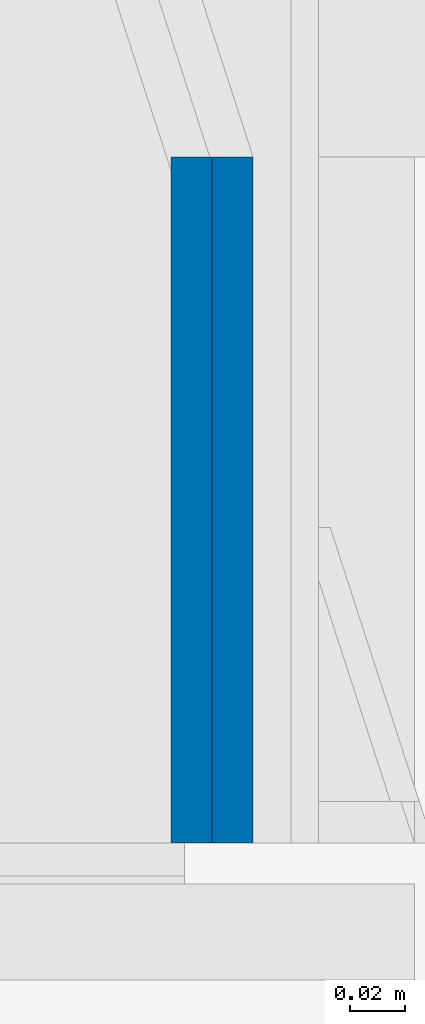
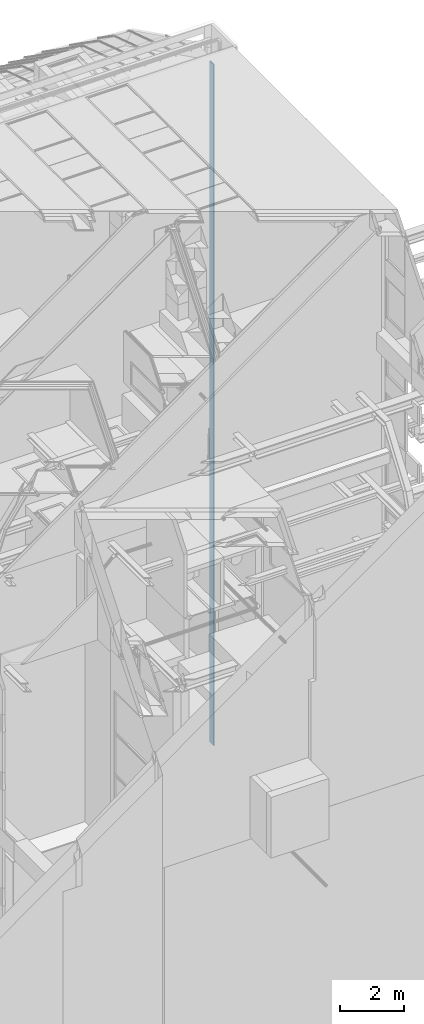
# One storey, part 26 of 583: 2 walls.
"""IFC2X3 building model written with IfcOpenShell, lengths in metres."""

from ifc_helpers import new_model, entity, si_unit, converted_unit, derived_unit, money_unit, direction, frame, frame_2d, origin_with_axes, place, context, subcontext, project, spatial, rectangle, extrude, material, type_object, element, save


model = new_model("IFC2X3")

# Units and contexts
model_context = context("Model", 3, precision=1e-05, world=origin_with_axes(), true_north=direction((0.0, 1.0)))
body_context = subcontext(model_context, "Body", "Model", "MODEL_VIEW", scale=1.0)
ifc_project = project(units=[si_unit("LENGTHUNIT", "METRE"), si_unit("AREAUNIT", "SQUARE_METRE"), si_unit("VOLUMEUNIT", "CUBIC_METRE"), si_unit("ABSORBEDDOSEUNIT", "GRAY"), si_unit("AMOUNTOFSUBSTANCEUNIT", "MOLE"), si_unit("DOSEEQUIVALENTUNIT", "SIEVERT"), si_unit("ELECTRICCAPACITANCEUNIT", "FARAD"), si_unit("ELECTRICCHARGEUNIT", "COULOMB"), si_unit("ELECTRICCONDUCTANCEUNIT", "SIEMENS"), si_unit("ELECTRICCURRENTUNIT", "AMPERE"), si_unit("ELECTRICRESISTANCEUNIT", "OHM"), si_unit("ELECTRICVOLTAGEUNIT", "VOLT"), si_unit("ENERGYUNIT", "JOULE"), si_unit("FORCEUNIT", "NEWTON"), si_unit("FREQUENCYUNIT", "HERTZ"), si_unit("ILLUMINANCEUNIT", "LUX"), si_unit("INDUCTANCEUNIT", "HENRY"), si_unit("LUMINOUSFLUXUNIT", "LUMEN"), si_unit("LUMINOUSINTENSITYUNIT", "CANDELA"), si_unit("MAGNETICFLUXDENSITYUNIT", "TESLA"), si_unit("MAGNETICFLUXUNIT", "WEBER"), si_unit("MASSUNIT", "GRAM"), converted_unit("PLANEANGLEUNIT", "degree", entity("IfcReal", 0.0174532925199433), si_unit("PLANEANGLEUNIT", "RADIAN"), dimensions=[0, 0, 0, 0, 0, 0, 0]), si_unit("POWERUNIT", "WATT"), si_unit("PRESSUREUNIT", "PASCAL"), si_unit("RADIOACTIVITYUNIT", "BECQUEREL"), si_unit("SOLIDANGLEUNIT", "STERADIAN"), si_unit("THERMODYNAMICTEMPERATUREUNIT", "KELVIN"), si_unit("TIMEUNIT", "SECOND"), derived_unit("ACCELERATIONUNIT", [(si_unit("LENGTHUNIT", "METRE"), 1), (si_unit("TIMEUNIT", "SECOND"), -2)]), derived_unit("ANGULARVELOCITYUNIT", [(converted_unit("PLANEANGLEUNIT", "degree", entity("IfcReal", 0.0174532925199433), si_unit("PLANEANGLEUNIT", "RADIAN"), dimensions=[0, 0, 0, 0, 0, 0, 0]), 1), (si_unit("TIMEUNIT", "SECOND"), -1)]), derived_unit("CURVATUREUNIT", [(converted_unit("PLANEANGLEUNIT", "degree", entity("IfcReal", 0.0174532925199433), si_unit("PLANEANGLEUNIT", "RADIAN"), dimensions=[0, 0, 0, 0, 0, 0, 0]), 1), (si_unit("LENGTHUNIT", "METRE"), -1)]), derived_unit("DYNAMICVISCOSITYUNIT", [(si_unit("PRESSUREUNIT", "PASCAL"), 1), (si_unit("TIMEUNIT", "SECOND"), 1)]), derived_unit("HEATFLUXDENSITYUNIT", [(si_unit("POWERUNIT", "WATT"), 1), (si_unit("LENGTHUNIT", "METRE"), -2)]), derived_unit("HEATINGVALUEUNIT", [(si_unit("ENERGYUNIT", "JOULE"), 1), (si_unit("MASSUNIT", "GRAM"), -1)]), derived_unit("INTEGERCOUNTRATEUNIT", [(si_unit("TIMEUNIT", "SECOND"), -1)]), derived_unit("IONCONCENTRATIONUNIT", [(si_unit("MASSUNIT", "GRAM"), 1), (si_unit("VOLUMEUNIT", "CUBIC_METRE"), -1)]), derived_unit("ISOTHERMALMOISTURECAPACITYUNIT", [(si_unit("VOLUMEUNIT", "CUBIC_METRE"), 1), (si_unit("MASSUNIT", "GRAM"), -1)]), derived_unit("KINEMATICVISCOSITYUNIT", [(si_unit("AREAUNIT", "SQUARE_METRE"), 1), (si_unit("TIMEUNIT", "SECOND"), -1)]), derived_unit("LINEARFORCEUNIT", [(si_unit("FORCEUNIT", "NEWTON"), 1), (si_unit("LENGTHUNIT", "METRE"), -1)]), derived_unit("LINEARMOMENTUNIT", [(si_unit("FORCEUNIT", "NEWTON"), 1), (si_unit("LENGTHUNIT", "METRE"), -1)]), derived_unit("LINEARSTIFFNESSUNIT", [(si_unit("FORCEUNIT", "NEWTON"), 1), (si_unit("LENGTHUNIT", "METRE"), -1)]), derived_unit("LINEARVELOCITYUNIT", [(si_unit("LENGTHUNIT", "METRE"), 1), (si_unit("TIMEUNIT", "SECOND"), -1)]), derived_unit("LUMINOUSINTENSITYDISTRIBUTIONUNIT", [(si_unit("LUMINOUSINTENSITYUNIT", "CANDELA"), 1), (si_unit("LUMINOUSFLUXUNIT", "LUMEN"), -1)]), derived_unit("MASSDENSITYUNIT", [(si_unit("MASSUNIT", "GRAM"), 1), (si_unit("VOLUMEUNIT", "CUBIC_METRE"), -1)]), derived_unit("MASSFLOWRATEUNIT", [(si_unit("MASSUNIT", "GRAM"), 1), (si_unit("TIMEUNIT", "SECOND"), -1)]), derived_unit("MASSPERLENGTHUNIT", [(si_unit("MASSUNIT", "GRAM"), 1), (si_unit("LENGTHUNIT", "METRE"), -1)]), derived_unit("MODULUSOFELASTICITYUNIT", [(si_unit("FORCEUNIT", "NEWTON"), 1), (si_unit("AREAUNIT", "SQUARE_METRE"), -1)]), derived_unit("MODULUSOFLINEARSUBGRADEREACTIONUNIT", [(si_unit("FORCEUNIT", "NEWTON"), 1), (si_unit("LENGTHUNIT", "METRE"), -2)]), derived_unit("MODULUSOFROTATIONALSUBGRADEREACTIONUNIT", [(si_unit("FORCEUNIT", "NEWTON"), 1), (si_unit("LENGTHUNIT", "METRE"), 1)]), derived_unit("MODULUSOFSUBGRADEREACTIONUNIT", [(si_unit("FORCEUNIT", "NEWTON"), 1), (si_unit("VOLUMEUNIT", "CUBIC_METRE"), -1)]), derived_unit("MOISTUREDIFFUSIVITYUNIT", [(si_unit("VOLUMEUNIT", "CUBIC_METRE"), 1), (si_unit("TIMEUNIT", "SECOND"), -1)]), derived_unit("MOLECULARWEIGHTUNIT", [(si_unit("MASSUNIT", "GRAM"), 1), (si_unit("AMOUNTOFSUBSTANCEUNIT", "MOLE"), -1)]), derived_unit("PLANARFORCEUNIT", [(si_unit("FORCEUNIT", "NEWTON"), 1), (si_unit("LENGTHUNIT", "METRE"), -2)]), derived_unit("ROTATIONALFREQUENCYUNIT", [(si_unit("TIMEUNIT", "SECOND"), -1)]), derived_unit("ROTATIONALMASSUNIT", [(si_unit("MASSUNIT", "GRAM"), 1), (si_unit("LENGTHUNIT", "METRE"), 2)]), derived_unit("ROTATIONALSTIFFNESSUNIT", [(si_unit("FORCEUNIT", "NEWTON"), 1), (si_unit("LENGTHUNIT", "METRE"), 1), (converted_unit("PLANEANGLEUNIT", "degree", entity("IfcReal", 0.0174532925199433), si_unit("PLANEANGLEUNIT", "RADIAN"), dimensions=[0, 0, 0, 0, 0, 0, 0]), -1)]), derived_unit("SECTIONAREAINTEGRALUNIT", [(si_unit("LENGTHUNIT", "METRE"), 5)]), derived_unit("SECTIONMODULUSUNIT", [(si_unit("LENGTHUNIT", "METRE"), 3)]), derived_unit("SHEARMODULUSUNIT", [(si_unit("FORCEUNIT", "NEWTON"), 1), (si_unit("AREAUNIT", "SQUARE_METRE"), -1)]), derived_unit("SOUNDPOWERUNIT", [(si_unit("ENERGYUNIT", "JOULE"), 1), (si_unit("TIMEUNIT", "SECOND"), -1)]), derived_unit("SPECIFICHEATCAPACITYUNIT", [(si_unit("FORCEUNIT", "NEWTON"), 1), (si_unit("MASSUNIT", "GRAM"), -1), (si_unit("THERMODYNAMICTEMPERATUREUNIT", "KELVIN"), -1)]), derived_unit("TEMPERATUREGRADIENTUNIT", [(si_unit("THERMODYNAMICTEMPERATUREUNIT", "KELVIN"), 1), (si_unit("LENGTHUNIT", "METRE"), -1)]), derived_unit("THERMALADMITTANCEUNIT", [(si_unit("POWERUNIT", "WATT"), 1), (si_unit("AREAUNIT", "SQUARE_METRE"), -1), (si_unit("THERMODYNAMICTEMPERATUREUNIT", "KELVIN"), -1)]), derived_unit("THERMALCONDUCTANCEUNIT", [(si_unit("POWERUNIT", "WATT"), 1), (si_unit("LENGTHUNIT", "METRE"), -1), (si_unit("THERMODYNAMICTEMPERATUREUNIT", "KELVIN"), -1)]), derived_unit("THERMALEXPANSIONCOEFFICIENTUNIT", [(si_unit("THERMODYNAMICTEMPERATUREUNIT", "KELVIN"), -1)]), derived_unit("THERMALRESISTANCEUNIT", [(si_unit("AREAUNIT", "SQUARE_METRE"), 1), (si_unit("POWERUNIT", "WATT"), -1)]), derived_unit("THERMALTRANSMITTANCEUNIT", [(si_unit("POWERUNIT", "WATT"), 1), (si_unit("AREAUNIT", "SQUARE_METRE"), -1), (si_unit("THERMODYNAMICTEMPERATUREUNIT", "KELVIN"), -1)]), derived_unit("TORQUEUNIT", [(si_unit("FORCEUNIT", "NEWTON"), 1), (si_unit("LENGTHUNIT", "METRE"), 1)]), derived_unit("VAPORPERMEABILITYUNIT", [(si_unit("MASSUNIT", "GRAM"), 1), (si_unit("TIMEUNIT", "SECOND"), -1)]), derived_unit("VOLUMETRICFLOWRATEUNIT", [(si_unit("VOLUMEUNIT", "CUBIC_METRE"), 1), (si_unit("TIMEUNIT", "SECOND"), -1)]), derived_unit("WARPINGCONSTANTUNIT", [(si_unit("LENGTHUNIT", "METRE"), 6)]), derived_unit("WARPINGMOMENTUNIT", [(si_unit("FORCEUNIT", "NEWTON"), 1), (si_unit("LENGTHUNIT", "METRE"), 2)]), money_unit("GBP")], contexts=[model_context])

# Site, building, storey
site_placement = place(None, origin_with_axes())
site = spatial("IfcSite", under=ifc_project, at=site_placement, Name="Site", CompositionType="ELEMENT")
building_placement = place(site_placement, origin_with_axes())
building = spatial("IfcBuilding", under=site, at=building_placement, Name="Building01", CompositionType="ELEMENT")
storey_placement = place(building_placement, frame((0.0, 0.0, 20.78), z_axis=(0.0, 0.0, 1.0), x_axis=(1.0, 0.0, 0.0)))
storey = spatial("IfcBuildingStorey", under=building, at=storey_placement, Name="RL", CompositionType="ELEMENT", Elevation=20.78)

# Walls
ifc_material = material(Name="A_BSUK_WallsInternal")
wall_type = type_object("IfcWallType", Name="A-Walls-Internal", PredefinedType="NOTDEFINED")
wall_1_placement = place(storey_placement, frame((14.3212, 14.98, -20.1862), z_axis=(0.0, 1.0, 0.0), x_axis=(0.0, 0.0, 1.0)))
element("IfcWall", 1, at=wall_1_placement, inside=storey, type_object=wall_type, material=ifc_material, Name="7C", ObjectType="A-Walls-Internal", context=body_context, shape_type="SweptSolid", body=[
    extrude(rectangle(XDim=25.8074, YDim=0.015, at=frame_2d((12.9037, -0.0075), x_axis=(-1.0, 0.0))), origin_with_axes(), (0.0, 0.0, 1.0), 0.25),
])
wall_2_placement = place(storey_placement, frame((14.3062, 14.98, -20.1712), z_axis=(0.0, 1.0, 0.0), x_axis=(0.0, 0.0, 1.0)))
element("IfcWall", 2, at=wall_2_placement, inside=storey, type_object=wall_type, material=ifc_material, Name="7C", ObjectType="A-Walls-Internal", context=body_context, shape_type="SweptSolid", body=[
    extrude(rectangle(XDim=25.7774, YDim=0.015, at=frame_2d((12.8887, -0.0075), x_axis=(-1.0, 0.0))), origin_with_axes(), (0.0, 0.0, 1.0), 0.25),
])

save(model, "model.ifc")
